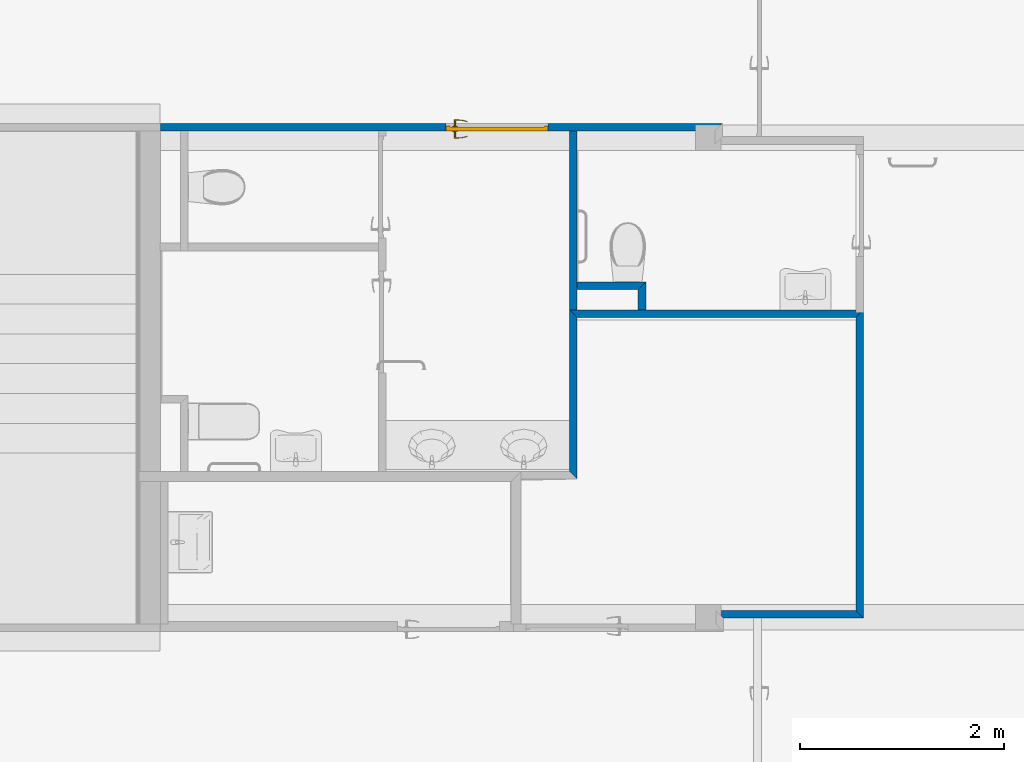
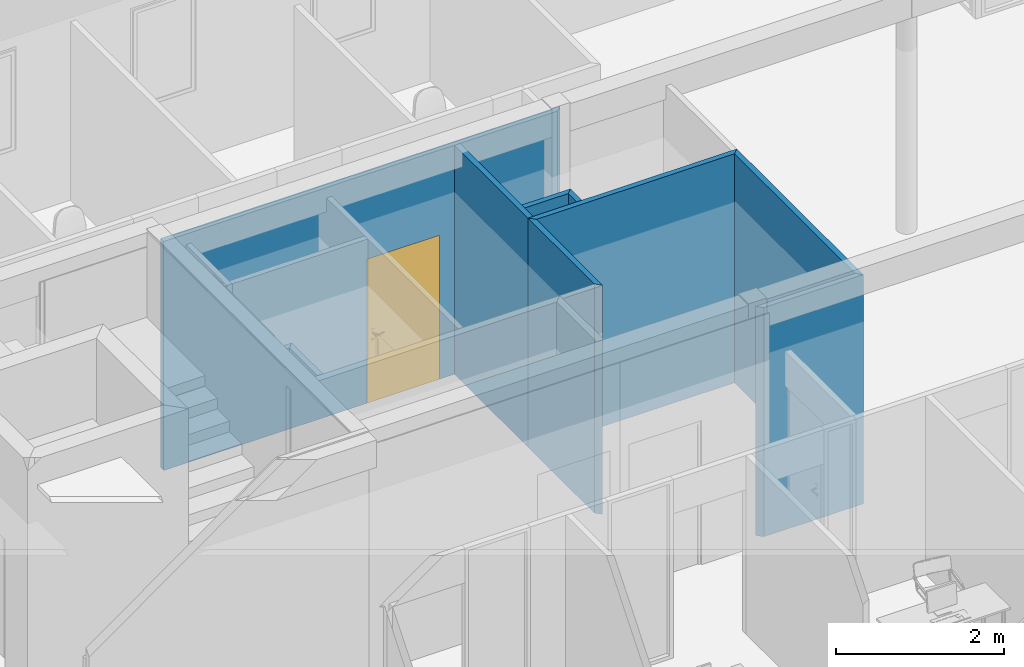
# One storey, part 24 of 91: 8 walls, 1 door, 1 opening.
"""IFC2X3 building model written with IfcOpenShell, lengths in metres."""

import ifcopenshell
import ifcopenshell.guid

model = None  # the IFC model being written
_history = None  # IfcOwnerHistory: only IFC2X3 demands one
_inside = {}  # id of a spatial element -> (the spatial element, [elements in it])
_under = {}  # id of a project, library or spatial element -> (it, [spatial elements below it])
_declared = {}  # id of a project -> (the project, [libraries it declares])
_typed = {}  # id of a type object -> (the type object, [elements of that type])
_made_of = {}  # id of a material, layer set ... -> (it, [elements and type objects made of it])


def new_model(schema):
    """Start an empty IFC model of exactly this schema.

    Asked for "IFC4X3", IfcOpenShell would pick the latest addendum, in which some entities
    have other attributes; the version numbers below select the first issue.
    IFC2X3 requires an IfcOwnerHistory on every rooted entity: one is made here for all.
    """
    global model, _history
    if schema == "IFC4X3":
        model = ifcopenshell.file(schema_version=(4, 3, 0, 0))
    else:
        model = ifcopenshell.file(schema=schema)
    _inside.clear()
    _under.clear()
    _declared.clear()
    _typed.clear()
    _made_of.clear()
    _history = None
    if model.schema == "IFC2X3":
        org = make("IfcOrganization", Name="unknown")
        user = make(
            "IfcPersonAndOrganization",
            ThePerson=make("IfcPerson", FamilyName="unknown"),
            TheOrganization=org,
        )
        app = make(
            "IfcApplication",
            ApplicationDeveloper=org,
            Version="unknown",
            ApplicationFullName="unknown",
            ApplicationIdentifier="unknown",
        )
        _history = make(
            "IfcOwnerHistory",
            OwningUser=user,
            OwningApplication=app,
            ChangeAction="ADDED",
            CreationDate=0,
        )
    return model


def make(cls, **values):
    """One entity of the class cls with the attributes given. An attribute that is None is left unset."""
    return model.create_entity(
        cls, **{name: value for name, value in values.items() if value is not None}
    )


def entity(cls, *values):
    """Any entity or typed value of the class cls, its attributes in the order of the schema. None: left unset."""
    e = model.create_entity(cls)
    for i, value in enumerate(values):
        if value is not None:
            e[i] = value
    return e


def rooted(cls, **values):
    """An entity with a GlobalId (a new one), such as an element, a storey or a relation."""
    return make(cls, GlobalId=ifcopenshell.guid.new(), OwnerHistory=_history, **values)


def si_unit(unit_type, name, prefix=None):
    """IfcSIUnit, for example si_unit("LENGTHUNIT", "METRE", prefix="MILLI")."""
    return make("IfcSIUnit", UnitType=unit_type, Prefix=prefix, Name=name)


def converted_unit(unit_type, name, factor, base, dimensions=None, offset=None):
    """IfcConversionBasedUnit, such as the inch: factor (a typed value) times the base unit."""
    return make(
        "IfcConversionBasedUnit"
        if offset is None
        else "IfcConversionBasedUnitWithOffset",
        ConversionOffset=offset,
        Dimensions=None
        if dimensions is None
        else entity("IfcDimensionalExponents", *dimensions),
        UnitType=unit_type,
        Name=name,
        ConversionFactor=make(
            "IfcMeasureWithUnit", ValueComponent=factor, UnitComponent=base
        ),
    )


def derived_unit(unit_type, elements):
    """IfcDerivedUnit: a product of units, each with its exponent."""
    return make(
        "IfcDerivedUnit",
        Elements=[
            make("IfcDerivedUnitElement", Unit=unit, Exponent=power)
            for unit, power in elements
        ],
        UnitType=unit_type,
    )


def money_unit(currency):
    """IfcMonetaryUnit."""
    return make("IfcMonetaryUnit", Currency=currency)


def assignment(units):
    """IfcUnitAssignment: the units of a project."""
    return None if units is None else make("IfcUnitAssignment", Units=units)


def point(xyz):
    """IfcCartesianPoint."""
    return None if xyz is None else make("IfcCartesianPoint", Coordinates=xyz)


def direction(xyz):
    """IfcDirection."""
    return None if xyz is None else make("IfcDirection", DirectionRatios=xyz)


def frame(location, z_axis=None, x_axis=None):
    """IfcAxis2Placement3D, a coordinate frame: its origin and axes. An axis left out is left unset."""
    return make(
        "IfcAxis2Placement3D",
        Location=point(location),
        Axis=direction(z_axis),
        RefDirection=direction(x_axis),
    )


def frame_2d(location, x_axis=None):
    """IfcAxis2Placement2D, a coordinate frame in the plane: its origin and x axis."""
    return make(
        "IfcAxis2Placement2D", Location=point(location), RefDirection=direction(x_axis)
    )


def origin_with_axes():
    """The frame at (0, 0, 0) with the z axis (0, 0, 1) and the x axis (1, 0, 0) written out."""
    return frame((0.0, 0.0, 0.0), z_axis=(0.0, 0.0, 1.0), x_axis=(1.0, 0.0, 0.0))


def origin_2d_with_axis():
    """The frame at (0, 0) in the plane with the x axis (1, 0) written out."""
    return frame_2d((0.0, 0.0), x_axis=(1.0, 0.0))


def place(relative_to, where):
    """IfcLocalPlacement: puts the frame where relative to a parent placement (None: the world)."""
    return make(
        "IfcLocalPlacement", PlacementRelTo=relative_to, RelativePlacement=where
    )


def context(
    kind, dimensions, precision=None, world=None, true_north=None, identifier=None
):
    """IfcGeometricRepresentationContext, for example the 3D "Model" context."""
    return make(
        "IfcGeometricRepresentationContext",
        ContextIdentifier=identifier,
        ContextType=kind,
        CoordinateSpaceDimension=dimensions,
        Precision=precision,
        WorldCoordinateSystem=world,
        TrueNorth=true_north,
    )


def subcontext(parent, identifier, kind, view, scale=None):
    """IfcGeometricRepresentationSubContext, for example "Body" below "Model"."""
    return make(
        "IfcGeometricRepresentationSubContext",
        ContextIdentifier=identifier,
        ContextType=kind,
        ParentContext=parent,
        TargetScale=scale,
        TargetView=view,
    )


def project(units=None, contexts=None):
    """IfcProject with its units and contexts."""
    return rooted(
        "IfcProject",
        Name="project",
        RepresentationContexts=contexts,
        UnitsInContext=assignment(units),
    )


def spatial(cls, under=None, at=None, **own):
    """A site, building, storey or space (cls), placed at a placement, below another one or the project."""
    s = rooted(cls, ObjectPlacement=at, **own)
    if under is not None:
        _under.setdefault(under.id(), (under, []))[1].append(s)
    return s


def polyline(points):
    """IfcPolyline through the points."""
    return make("IfcPolyline", Points=[point(p) for p in points])


def profile(cls, at=None, kind="AREA", **sizes):
    """A parametric profile (cls). Its sizes go by their IFC names, for example OverallWidth=200.0."""
    return make(cls, ProfileType=kind, Position=at, **sizes)


def rectangle(**sizes):
    """IfcRectangleProfileDef."""
    return profile("IfcRectangleProfileDef", **sizes)


def outline(outer, holes=None, kind="AREA"):
    """IfcArbitraryClosedProfileDef: a profile drawn as a closed curve; with holes, ...WithVoids."""
    if holes is None:
        return make("IfcArbitraryClosedProfileDef", ProfileType=kind, OuterCurve=outer)
    return make(
        "IfcArbitraryProfileDefWithVoids",
        ProfileType=kind,
        OuterCurve=outer,
        InnerCurves=holes,
    )


def extrude(swept, where, along, depth):
    """IfcExtrudedAreaSolid: the profile swept, set in the frame where, extruded along a direction by depth."""
    return make(
        "IfcExtrudedAreaSolid",
        SweptArea=swept,
        Position=where,
        ExtrudedDirection=direction(along),
        Depth=depth,
    )


def faces_of(points, faces, orient=None, outer=None):
    """IfcFace entities. A face is a list of loops; a loop is a list of indices into points, from 0.

    orient and outer hold one flag for each loop. By default every Orientation is true, the
    first loop of a face is its IfcFaceOuterBound and the others are IfcFaceBound.
    """
    made = []
    for i, loops in enumerate(faces):
        bounds = []
        for j, loop in enumerate(loops):
            is_outer = j == 0 if outer is None else outer[i][j]
            bounds.append(
                make(
                    "IfcFaceOuterBound" if is_outer else "IfcFaceBound",
                    Bound=make("IfcPolyLoop", Polygon=[points[k] for k in loop]),
                    Orientation=True if orient is None else orient[i][j],
                )
            )
        made.append(make("IfcFace", Bounds=bounds))
    return made


def open_shell(faces, orient=None, outer=None):
    """The faces of one IfcOpenShell. surface_model builds it on its shared points."""
    return ("IfcOpenShell", faces, orient, outer)


def faceted_brep(points, faces, orient=None, outer=None, voids=None):
    """IfcFacetedBrep: a solid bounded by flat faces; with voids (closed shells), ...WithVoids."""
    shared = [point(p) for p in points]
    hull = make("IfcClosedShell", CfsFaces=faces_of(shared, faces, orient, outer))
    if voids is None:
        return make("IfcFacetedBrep", Outer=hull)
    return make(
        "IfcFacetedBrepWithVoids",
        Outer=hull,
        Voids=[
            make(cls, CfsFaces=faces_of(shared, fs, o, b)) for cls, fs, o, b in voids
        ],
    )


def surface_model(cls, points, shells):
    """IfcFaceBasedSurfaceModel or IfcShellBasedSurfaceModel (cls): surfaces that need not close."""
    shared = [point(p) for p in points]
    made = [make(c, CfsFaces=faces_of(shared, fs, o, b)) for c, fs, o, b in shells]
    if cls == "IfcFaceBasedSurfaceModel":
        return make(cls, FbsmFaces=made)
    return make(cls, SbsmBoundary=made)


def shape(context_of_items, identifier, shape_type, items):
    """IfcShapeRepresentation: the items that make up one representation, for example the "Body"."""
    return make(
        "IfcShapeRepresentation",
        ContextOfItems=context_of_items,
        RepresentationIdentifier=identifier,
        RepresentationType=shape_type,
        Items=items,
    )


def source(mapping_origin, context_of_items, identifier, shape_type, items):
    """IfcRepresentationMap: a shape defined once, which mapped items show again and again."""
    return make(
        "IfcRepresentationMap",
        MappingOrigin=mapping_origin,
        MappedRepresentation=shape(context_of_items, identifier, shape_type, items),
    )


def transform(
    local_origin,
    x_axis=None,
    y_axis=None,
    z_axis=None,
    scale=None,
    scale2=None,
    scale3=None,
    uniform=True,
):
    """IfcCartesianTransformationOperator3D, or its non-uniform kind. x_axis, y_axis, z_axis: its Axis1, 2, 3."""
    if uniform:
        return make(
            "IfcCartesianTransformationOperator3D",
            Axis1=direction(x_axis),
            Axis2=direction(y_axis),
            LocalOrigin=point(local_origin),
            Scale=scale,
            Axis3=direction(z_axis),
        )
    return make(
        "IfcCartesianTransformationOperator3DnonUniform",
        Axis1=direction(x_axis),
        Axis2=direction(y_axis),
        LocalOrigin=point(local_origin),
        Scale=scale,
        Axis3=direction(z_axis),
        Scale2=scale2,
        Scale3=scale3,
    )


def mapped(mapping_source, mapping_target):
    """IfcMappedItem: shows the shape of a source again, moved by a transform."""
    return make(
        "IfcMappedItem", MappingSource=mapping_source, MappingTarget=mapping_target
    )


def material(Name=None, Category=None):
    """IfcMaterial."""
    return make("IfcMaterial", Name=Name, Category=Category)


def layer(
    of_material, thickness, ventilated=None, Name=None, Category=None, Priority=None
):
    """IfcMaterialLayer: one layer of a wall or slab, of a material (None: an air gap)."""
    return make(
        "IfcMaterialLayer",
        Material=of_material,
        LayerThickness=thickness,
        IsVentilated=ventilated,
        Name=Name,
        Category=Category,
        Priority=Priority,
    )


def layer_set(layers, Name=None):
    """IfcMaterialLayerSet."""
    return make("IfcMaterialLayerSet", MaterialLayers=layers, LayerSetName=Name)


def layer_usage(for_layer_set, set_direction, sense, offset, extent=None):
    """IfcMaterialLayerSetUsage: how a layer set lies in its element."""
    return make(
        "IfcMaterialLayerSetUsage",
        ForLayerSet=for_layer_set,
        LayerSetDirection=set_direction,
        DirectionSense=sense,
        OffsetFromReferenceLine=offset,
        ReferenceExtent=extent,
    )


def made_of(thing, what):
    """Note that an element or type object is made of a material, layer set ...; save() writes the relation."""
    if what is not None:
        _made_of.setdefault(what.id(), (what, []))[1].append(thing)
    return thing


def type_object(cls, material=None, **own):
    """A type object (cls), such as IfcWallType, which elements share."""
    return made_of(rooted(cls, **own), material)


def element(
    cls,
    number,
    at=None,
    inside=None,
    cuts=None,
    type_object=None,
    material=None,
    context=None,
    identifier="Body",
    shape_type=None,
    held_by="IfcProductDefinitionShape",
    body=None,
    shapes=None,
    **own,
):
    """One element of the class cls, such as IfcWall. Its Tag is "e" and its number.

    at: its placement. inside: the storey or other place that contains it. cuts: it is an
    opening in that element (IfcRelVoidsElement). A single representation is given by context,
    identifier, shape_type and body (its items); several are given by shapes. held_by: the class
    of the entity that holds the representations. save() writes the other relations.
    """
    e = rooted(cls, Tag="e%d" % number, ObjectPlacement=at, **own)
    if body is not None:
        shapes = [shape(context, identifier, shape_type, body)]
    if shapes is not None:
        e.Representation = make(held_by, Representations=shapes)
    if inside is not None:
        _inside.setdefault(inside.id(), (inside, []))[1].append(e)
    if cuts is not None:
        rooted(
            "IfcRelVoidsElement", RelatingBuildingElement=cuts, RelatedOpeningElement=e
        )
    if type_object is not None:
        _typed.setdefault(type_object.id(), (type_object, []))[1].append(e)
    return made_of(e, material)


def fill(opening, filler):
    """IfcRelFillsElement: the door or window that sits in an opening."""
    return rooted(
        "IfcRelFillsElement",
        RelatingOpeningElement=opening,
        RelatedBuildingElement=filler,
    )


def aggregate(whole, parts):
    """IfcRelAggregates: a whole, such as a stair, and the parts it consists of."""
    return rooted("IfcRelAggregates", RelatingObject=whole, RelatedObjects=parts)


def save(model, path):
    """Write the relations noted so far, then the file.

    IfcRelAggregates (storeys below a building ...), IfcRelContainedInSpatialStructure (elements
    in a storey), IfcRelDefinesByType, IfcRelAssociatesMaterial and IfcRelDeclares: one each for
    every whole, place, type object, material and project.
    """
    for whole, parts in _under.values():
        aggregate(whole, parts)
    for where, things in _inside.values():
        rooted(
            "IfcRelContainedInSpatialStructure",
            RelatedElements=things,
            RelatingStructure=where,
        )
    for kind, things in _typed.values():
        rooted("IfcRelDefinesByType", RelatedObjects=things, RelatingType=kind)
    for what, things in _made_of.values():
        rooted("IfcRelAssociatesMaterial", RelatedObjects=things, RelatingMaterial=what)
    for by, libraries in _declared.values():
        rooted("IfcRelDeclares", RelatingContext=by, RelatedDefinitions=libraries)
    model.write(path)


model = new_model("IFC2X3")

# Units and contexts
model_context = context("Model", 3, precision=1e-05, world=origin_with_axes(), true_north=direction((0.0, 1.0)))
body_context = subcontext(model_context, "Body", "Model", "MODEL_VIEW")
ifc_project = project(units=[si_unit("LENGTHUNIT", "METRE"), si_unit("AREAUNIT", "SQUARE_METRE"), si_unit("VOLUMEUNIT", "CUBIC_METRE"), converted_unit("PLANEANGLEUNIT", "DEGREE", entity("IfcPlaneAngleMeasure", 0.0174532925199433), si_unit("PLANEANGLEUNIT", "RADIAN"), dimensions=[0, 0, 0, 0, 0, 0, 0]), money_unit("EUR"), converted_unit("TIMEUNIT", "Year", entity("IfcTimeMeasure", 31557600.0), si_unit("TIMEUNIT", "SECOND"), dimensions=[0, 0, 1, 0, 0, 0, 0]), si_unit("MASSUNIT", "GRAM", prefix="KILO"), si_unit("THERMODYNAMICTEMPERATUREUNIT", "DEGREE_CELSIUS"), si_unit("LUMINOUSINTENSITYUNIT", "LUMEN"), si_unit("ENERGYUNIT", "JOULE", prefix="MEGA"), derived_unit("THERMALCONDUCTANCEUNIT", [(si_unit("POWERUNIT", "WATT"), 1), (si_unit("LENGTHUNIT", "METRE"), -1), (si_unit("THERMODYNAMICTEMPERATUREUNIT", "KELVIN"), -1)]), derived_unit("SPECIFICHEATCAPACITYUNIT", [(si_unit("ENERGYUNIT", "JOULE"), 1), (si_unit("MASSUNIT", "GRAM", prefix="KILO"), -1), (si_unit("THERMODYNAMICTEMPERATUREUNIT", "KELVIN"), -1)]), derived_unit("MASSDENSITYUNIT", [(si_unit("MASSUNIT", "GRAM", prefix="KILO"), 1), (si_unit("VOLUMEUNIT", "CUBIC_METRE"), -1)])], contexts=[model_context])

# Site, building, storey
site_placement = place(None, origin_with_axes())
site = spatial("IfcSite", under=ifc_project, at=site_placement, Name="Site", CompositionType="ELEMENT")
building_placement = place(site_placement, origin_with_axes())
building = spatial("IfcBuilding", under=site, at=building_placement, Name="Bâtiment", CompositionType="ELEMENT")
storey_placement = place(building_placement, origin_with_axes())
storey = spatial("IfcBuildingStorey", under=building, at=storey_placement, Name="RDC", CompositionType="ELEMENT", Elevation=0.0)

# Walls
ifc_material_1 = material(Name="Finition int - Plaque de plâtre")
ifc_layer_1 = layer(ifc_material_1, 0.013, ventilated="UNKNOWN")
ifc_material_2 = material(Name="Isolation - Laine de verre")
ifc_layer_2 = layer(ifc_material_2, 0.048, ventilated="UNKNOWN")
ifc_layer_3 = layer(ifc_material_1, 0.013, ventilated="UNKNOWN")
ifc_layer_set = layer_set([ifc_layer_1, ifc_layer_2, ifc_layer_3], Name="*Cloison 72")
ifc_layer_usage_1 = layer_usage(ifc_layer_set, "AXIS2", "POSITIVE", 0.0)
wall_type = type_object("IfcWallType", Name="*Cloison 72 74", PredefinedType="NOTDEFINED")
wall_1_placement = place(storey_placement, frame((42.13700816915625, -20.02867101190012, 0.0), z_axis=(0.0, 0.0, 1.0), x_axis=(0.0, 1.0, 0.0)))
element("IfcWallStandardCase", 1, at=wall_1_placement, inside=storey, type_object=wall_type, material=ifc_layer_usage_1, Name="Cloisons ép. 72mm", context=body_context, shape_type="SweptSolid", body=[
    extrude(outline(polyline([(-0.0740000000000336, 0.0), (1.51111129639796, 0.0), (1.585111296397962, 0.07399999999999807), (6.812595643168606e-08, 0.07399999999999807), (-0.0740000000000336, 0.0)])), origin_with_axes(), (0.0, 0.0, 1.0), 3.34),
])
ifc_layer_usage_2 = layer_usage(ifc_layer_set, "AXIS2", "NEGATIVE", 0.0)
wall_2_placement = place(storey_placement, frame((44.94299999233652, -21.46756192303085, 0.0), z_axis=(0.0, 0.0, 1.0), x_axis=(-1.0, 0.0, 0.0)))
element("IfcWallStandardCase", 2, at=wall_2_placement, inside=storey, type_object=wall_type, material=ifc_layer_usage_2, Name="Cloisons ép. 72mm", context=body_context, shape_type="SweptSolid", body=[
    extrude(outline(polyline([(0.07399999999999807, -0.07400000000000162), (1.446901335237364, -0.07400000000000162), (1.372901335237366, 0.0), (0.0, 0.0), (0.07399999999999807, -0.07400000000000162)])), origin_with_axes(), (0.0, 0.0, 1.0), 3.34),
])
ifc_layer_usage_3 = layer_usage(ifc_layer_set, "AXIS2", "NEGATIVE", 0.0)
wall_3_placement = place(storey_placement, frame((42.06300816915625, -18.44355971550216, 0.0), z_axis=(0.0, 0.0, 1.0), x_axis=(0.0, 1.0, 0.0)))
element("IfcWallStandardCase", 3, at=wall_3_placement, inside=storey, type_object=wall_type, material=ifc_layer_usage_3, Name="Cloisons ép. 72mm", context=body_context, shape_type="SweptSolid", body=[
    extrude(outline(polyline([(0.0, -0.07399999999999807), (1.751997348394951, -0.07399999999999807), (1.751997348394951, 0.0), (0.0, 0.0), (0.0, -0.07399999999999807)])), origin_with_axes(), (0.0, 0.0, 1.0), 3.34),
])
ifc_layer_usage_4 = layer_usage(ifc_layer_set, "AXIS2", "POSITIVE", 0.0)
wall_4_placement = place(storey_placement, frame((42.06300816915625, -18.24355971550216, 0.0), z_axis=(0.0, 0.0, 1.0), x_axis=(1.0, 0.0, 0.0)))
element("IfcWallStandardCase", 4, at=wall_4_placement, inside=storey, type_object=wall_type, material=ifc_layer_usage_4, Name="Cloisons ép. 72mm", context=body_context, shape_type="SweptSolid", body=[
    extrude(outline(polyline([(0.07399999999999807, 0.0), (0.6725318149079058, 0.0), (0.7465318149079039, 0.07400000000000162), (0.07399999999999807, 0.07400000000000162), (0.07399999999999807, 0.0)])), origin_with_axes(), (0.0, 0.0, 1.0), 3.34),
])
ifc_layer_usage_5 = layer_usage(ifc_layer_set, "AXIS2", "NEGATIVE", 0.0)
wall_5_placement = place(storey_placement, frame((42.73553998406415, -18.44355971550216, 0.0), z_axis=(0.0, 0.0, 1.0), x_axis=(0.0, 1.0, 0.0)))
element("IfcWallStandardCase", 5, at=wall_5_placement, inside=storey, type_object=wall_type, material=ifc_layer_usage_5, Name="Cloisons ép. 72mm", context=body_context, shape_type="SweptSolid", body=[
    extrude(outline(polyline([(0.0, -0.07399999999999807), (0.2740000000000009, -0.07399999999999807), (0.1999999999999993, 0.0), (0.0, 0.0), (0.0, -0.07399999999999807)])), origin_with_axes(), (0.0, 0.0, 1.0), 3.34),
])
ifc_layer_usage_6 = layer_usage(ifc_layer_set, "AXIS2", "NEGATIVE", 0.0)
wall_6_placement = place(storey_placement, frame((44.94299999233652, -18.51755971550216, 0.0), z_axis=(0.0, 0.0, 1.0), x_axis=(-1.0, 0.0, 0.0)))
element("IfcWallStandardCase", 6, at=wall_6_placement, inside=storey, type_object=wall_type, material=ifc_layer_usage_6, Name="Cloisons ép. 72mm", context=body_context, shape_type="SweptSolid", body=[
    extrude(outline(polyline([(0.0, -0.07400000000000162), (2.879991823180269, -0.07400000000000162), (2.805991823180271, 0.0), (0.07399999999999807, 0.0), (0.0, -0.07400000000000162)])), origin_with_axes(), (0.0, 0.0, 1.0), 3.34),
])
ifc_layer_usage_7 = layer_usage(ifc_layer_set, "AXIS2", "NEGATIVE", 0.0)
wall_7_placement = place(storey_placement, frame((44.94299999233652, -18.51755971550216, 0.0), z_axis=(0.0, 0.0, 1.0), x_axis=(0.0, -1.0, 0.0)))
element("IfcWallStandardCase", 7, at=wall_7_placement, inside=storey, type_object=wall_type, material=ifc_layer_usage_7, Name="Cloisons ép. 72mm", context=body_context, shape_type="SweptSolid", body=[
    extrude(outline(polyline([(0.0, -0.07399999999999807), (2.876002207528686, -0.07399999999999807), (2.950002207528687, 0.0), (-0.07400000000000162, 0.0), (0.0, -0.07399999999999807)])), origin_with_axes(), (0.0, 0.0, 1.0), 3.34),
])

# Wall, opening, door
ifc_layer_usage_8 = layer_usage(ifc_layer_set, "AXIS2", "POSITIVE", 0.0)
wall_8_placement = place(storey_placement, frame((43.55999727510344, -16.61756236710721, 0.0), z_axis=(0.0, 0.0, 1.0), x_axis=(-1.0, 0.0, 0.0)))
wall_8 = element("IfcWallStandardCase", 8, at=wall_8_placement, inside=storey, type_object=wall_type, material=ifc_layer_usage_8, Name="Cloisons ép. 72mm", context=body_context, shape_type="SweptSolid", body=[
    extrude(outline(polyline([(0.0, 0.0), (5.506989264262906, 0.0), (5.506989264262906, 0.07400000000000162), (0.07399999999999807, 0.07400000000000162), (0.0, 0.0)])), origin_with_axes(), (0.0, 0.0, 1.0), 3.34),
])
opening_placement = place(wall_8_placement, frame((2.206989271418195, 0.0, 0.0), z_axis=(0.0, 0.0, 1.0), x_axis=(1.0, 0.0, 0.0)))
opening = element("IfcOpeningElement", 9, at=opening_placement, cuts=wall_8, Name="Pi.05", context=body_context, shape_type="SweptSolid", body=[
    extrude(rectangle(XDim=1.0, YDim=2.1, at=origin_2d_with_axis()), frame((0.0, -0.07400000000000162, 1.05), z_axis=(0.0, -1.0, 0.0), x_axis=(-1.0, 0.0, 0.0)), (0.0, 0.0, -1.0), 0.222),
])
door_style = type_object("IfcDoorStyle", Name="Porte 27", ConstructionType="NOTDEFINED", OperationType="SINGLE_SWING_LEFT", ParameterTakesPrecedence=False, Sizeable=False)
shared_shape = source(origin_with_axes(), body_context, "Body", "SurfaceModel", [
    faceted_brep([(0.5, 0.0, 0.0), (0.5, -0.05, 0.0), (0.465, -0.05, 0.0), (0.465, 0.0, 0.0), (0.5, 0.0, 2.04), (0.5, -0.05, 2.04), (0.465, -0.05, 2.04), (0.465, 0.0, 2.04)], [[[0, 1, 2, 3]], [[4, 5, 1, 0]], [[1, 5, 6, 2]], [[3, 2, 6, 7]], [[0, 3, 7, 4]], [[7, 6, 5, 4]]]),
    faceted_brep([(-0.5, 0.0, 0.0), (-0.5, -0.05, 0.0), (-0.5, -0.05, 2.04), (-0.5, 0.0, 2.04), (-0.465, 0.0, 0.0), (-0.465, -0.05, 0.0), (-0.465, -0.05, 2.04), (-0.465, 0.0, 2.04)], [[[0, 1, 2, 3]], [[4, 5, 1, 0]], [[1, 5, 6, 2]], [[3, 2, 6, 7]], [[0, 3, 7, 4]], [[7, 6, 5, 4]]]),
    faceted_brep([(0.5, 0.0, 2.1), (0.5, -0.05, 2.1), (0.5, -0.05, 2.04), (0.5, 0.0, 2.04), (-0.5, 0.0, 2.1), (-0.5, -0.05, 2.1), (-0.5, -0.05, 2.04), (-0.465, -0.05, 2.04), (0.465, -0.05, 2.04), (0.465, 0.0, 2.04), (-0.465, 0.0, 2.04), (-0.5, 0.0, 2.04)], [[[0, 1, 2, 3]], [[4, 5, 1, 0]], [[1, 5, 6, 7, 8, 2]], [[3, 2, 8, 9]], [[0, 3, 9, 10, 11, 4]], [[11, 6, 5, 4]], [[10, 7, 6, 11]], [[9, 8, 7, 10]]]),
    faceted_brep([(0.4435, -0.04, 1.06), (0.3865, -0.04, 1.06), (0.3865, -0.043, 1.06), (0.4435, -0.043, 1.06), (0.4435, -0.04, 0.87), (0.3865, -0.04, 0.87), (0.3865, -0.043, 0.87), (0.4435, -0.043, 0.87)], [[[0, 1, 2, 3]], [[0, 4, 5, 1]], [[1, 5, 6, 2]], [[3, 2, 6, 7]], [[4, 0, 3, 7]], [[5, 4, 7, 6]]]),
    faceted_brep([(0.4149999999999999, -0.104, 0.99), (0.4199999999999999, -0.104, 0.9913397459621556), (0.4199999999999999, -0.111, 0.9913397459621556), (0.4149999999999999, -0.111, 0.99), (0.3899999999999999, -0.104, 0.99), (0.3899999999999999, -0.104, 1.01), (0.4149999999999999, -0.104, 1.01), (0.4199999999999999, -0.104, 1.008660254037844), (0.4236602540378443, -0.104, 1.005), (0.4249999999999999, -0.104, 1.0), (0.4236602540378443, -0.104, 0.995), (0.4236602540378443, -0.111, 0.995), (0.4249999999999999, -0.111, 1.0), (0.4236602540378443, -0.111, 1.005), (0.4199999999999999, -0.111, 1.008660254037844), (0.4149999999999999, -0.111, 1.01), (0.3899999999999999, -0.111, 1.01), (0.3899999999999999, -0.111, 0.99)], [[[0, 1, 2, 3]], [[0, 4, 5, 6, 7, 8, 9, 10, 1]], [[1, 10, 11, 2]], [[3, 2, 11, 12, 13, 14, 15, 16, 17]], [[4, 0, 3, 17]], [[5, 4, 17, 16]], [[6, 5, 16, 15]], [[7, 6, 15, 14]], [[8, 7, 14, 13]], [[9, 8, 13, 12]], [[10, 9, 12, 11]]]),
    surface_model("IfcShellBasedSurfaceModel", [(0.3899999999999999, -0.104, 1.01), (0.3769017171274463, -0.104, 1.009607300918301), (0.3765960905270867, -0.111, 1.009607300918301), (0.3899999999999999, -0.104, 0.99), (0.3769017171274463, -0.104, 0.9903926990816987), (0.349890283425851, -0.1086635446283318, 1.008821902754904), (0.3899999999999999, -0.111, 1.01), (0.3899999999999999, -0.111, 0.99), (0.3508048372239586, -0.1017168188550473, 0.9911780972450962), (0.3508048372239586, -0.1017168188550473, 1.008821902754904), (0.349890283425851, -0.1086635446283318, 0.9911780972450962), (0.3765960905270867, -0.111, 0.9903926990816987), (0.325006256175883, -0.09716783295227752, 0.9919634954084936), (0.325006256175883, -0.09716783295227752, 1.008036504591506), (0.3234897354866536, -0.104008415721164, 1.008036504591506), (0.3234897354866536, -0.104008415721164, 0.9919634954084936), (0.2997023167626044, -0.09038766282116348, 0.9927488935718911), (0.2997023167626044, -0.09038766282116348, 1.007251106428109), (0.2975953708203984, -0.09707004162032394, 1.007251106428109), (0.2975953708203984, -0.09707004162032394, 0.9927488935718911), (0.2918294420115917, -0.08752217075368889, 0.993), (0.2918294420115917, -0.08752217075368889, 1.007), (0.2895387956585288, -0.09413768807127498, 1.007), (0.2895387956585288, -0.09413768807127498, 0.993)], [open_shell([[[0, 1, 2]], [[0, 3, 4, 1]], [[1, 5, 2]], [[0, 2, 6]], [[4, 3, 7]], [[1, 4, 8, 9]], [[1, 9, 5]], [[2, 5, 10, 11]], [[6, 2, 11, 7]], [[4, 7, 11]], [[8, 4, 11]], [[9, 8, 12, 13]], [[9, 14, 5]], [[5, 14, 15, 10]], [[8, 11, 10]], [[12, 8, 10]], [[13, 12, 16, 17]], [[9, 13, 14]], [[14, 18, 19, 15]], [[12, 10, 15]], [[16, 12, 15]], [[17, 16, 20, 21]], [[13, 17, 18]], [[13, 18, 14]], [[18, 22, 23, 19]], [[16, 15, 19]], [[20, 16, 19]], [[21, 20, 23, 22]], [[17, 21, 22]], [[17, 22, 18]], [[20, 19, 23]]])]),
    faceted_brep([(0.4046076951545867, -0.05300000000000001, 0.994), (0.4029999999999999, -0.05300000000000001, 1.0), (0.4019999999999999, -0.043, 1.0), (0.4037416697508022, -0.043, 0.9935), (0.4089999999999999, -0.05300000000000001, 0.9896076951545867), (0.4149999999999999, -0.05300000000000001, 0.988), (0.4209999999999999, -0.05300000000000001, 0.9896076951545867), (0.4253923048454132, -0.05300000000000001, 0.994), (0.4269999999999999, -0.05300000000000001, 1.0), (0.4253923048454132, -0.05300000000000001, 1.006), (0.4209999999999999, -0.05300000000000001, 1.010392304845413), (0.4149999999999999, -0.05300000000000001, 1.012), (0.4089999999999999, -0.05300000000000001, 1.010392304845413), (0.4046076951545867, -0.05300000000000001, 1.006), (0.4037416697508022, -0.043, 1.0065), (0.4084999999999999, -0.043, 1.011258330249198), (0.4149999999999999, -0.043, 1.013), (0.4214999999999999, -0.043, 1.011258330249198), (0.4262583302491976, -0.043, 1.0065), (0.4279999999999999, -0.043, 1.0), (0.4262583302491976, -0.043, 0.9934999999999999), (0.4214999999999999, -0.043, 0.9887416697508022), (0.4149999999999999, -0.043, 0.987), (0.4084999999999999, -0.043, 0.9887416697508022)], [[[0, 1, 2, 3]], [[1, 0, 4, 5, 6, 7, 8, 9, 10, 11, 12, 13]], [[1, 13, 14, 2]], [[2, 14, 15, 16, 17, 18, 19, 20, 21, 22, 23, 3]], [[4, 0, 3, 23]], [[5, 4, 23, 22]], [[6, 5, 22, 21]], [[7, 6, 21, 20]], [[8, 7, 20, 19]], [[9, 8, 19, 18]], [[10, 9, 18, 17]], [[11, 10, 17, 16]], [[12, 11, 16, 15]], [[13, 12, 15, 14]]]),
    faceted_brep([(0.3976794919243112, -0.04700000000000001, 0.895), (0.3949999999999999, -0.04700000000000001, 0.905), (0.3929999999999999, -0.043, 0.905), (0.3959474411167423, -0.04300000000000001, 0.894), (0.4049999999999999, -0.04700000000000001, 0.8876794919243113), (0.4149999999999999, -0.04700000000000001, 0.885), (0.4249999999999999, -0.04700000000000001, 0.8876794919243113), (0.4323205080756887, -0.04700000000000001, 0.895), (0.4349999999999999, -0.04700000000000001, 0.905), (0.4323205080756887, -0.04700000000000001, 0.915), (0.4249999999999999, -0.04700000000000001, 0.9223205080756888), (0.4149999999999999, -0.04700000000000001, 0.925), (0.4049999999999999, -0.04700000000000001, 0.9223205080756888), (0.3976794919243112, -0.04700000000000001, 0.915), (0.3959474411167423, -0.043, 0.916), (0.4039999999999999, -0.043, 0.9240525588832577), (0.4149999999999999, -0.043, 0.927), (0.4259999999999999, -0.04300000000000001, 0.9240525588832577), (0.4340525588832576, -0.04300000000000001, 0.916), (0.4369999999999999, -0.04300000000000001, 0.905), (0.4340525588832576, -0.04300000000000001, 0.894), (0.4259999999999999, -0.04300000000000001, 0.8859474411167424), (0.4149999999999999, -0.04300000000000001, 0.883), (0.4039999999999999, -0.04300000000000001, 0.8859474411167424)], [[[0, 1, 2, 3]], [[1, 0, 4, 5, 6, 7, 8, 9, 10, 11, 12, 13]], [[1, 13, 14, 2]], [[2, 14, 15, 16, 17, 18, 19, 20, 21, 22, 23, 3]], [[4, 0, 3, 23]], [[5, 4, 23, 22]], [[6, 5, 22, 21]], [[7, 6, 21, 20]], [[8, 7, 20, 19]], [[9, 8, 19, 18]], [[10, 9, 18, 17]], [[11, 10, 17, 16]], [[12, 11, 16, 15]], [[13, 12, 15, 14]]]),
    faceted_brep([(0.4100502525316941, -0.04900000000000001, 0.9090502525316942), (0.4079999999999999, -0.04900000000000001, 0.914), (0.4069999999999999, -0.04700000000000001, 0.914), (0.4093431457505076, -0.04700000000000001, 0.9083431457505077), (0.4149999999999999, -0.04900000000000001, 0.907), (0.4199497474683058, -0.04900000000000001, 0.9090502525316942), (0.4219999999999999, -0.04900000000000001, 0.914), (0.4199497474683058, -0.04900000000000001, 0.9189497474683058), (0.4149999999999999, -0.04900000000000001, 0.921), (0.4100502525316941, -0.04900000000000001, 0.9189497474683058), (0.4093431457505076, -0.04700000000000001, 0.9196568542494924), (0.4149999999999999, -0.04700000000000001, 0.922), (0.4206568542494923, -0.04700000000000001, 0.9196568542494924), (0.4229999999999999, -0.04700000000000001, 0.914), (0.4206568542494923, -0.04700000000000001, 0.9083431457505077), (0.4149999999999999, -0.04700000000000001, 0.906)], [[[0, 1, 2, 3]], [[1, 0, 4, 5, 6, 7, 8, 9]], [[1, 9, 10, 2]], [[2, 10, 11, 12, 13, 14, 15, 3]], [[4, 0, 3, 15]], [[5, 4, 15, 14]], [[6, 5, 14, 13]], [[7, 6, 13, 12]], [[8, 7, 12, 11]], [[9, 8, 11, 10]]]),
    faceted_brep([(0.4149999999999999, -0.05300000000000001, 1.01), (0.4099999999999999, -0.05300000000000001, 1.008660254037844), (0.4099999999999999, -0.104, 1.008660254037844), (0.4149999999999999, -0.104, 1.01), (0.4199999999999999, -0.05300000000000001, 1.008660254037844), (0.4236602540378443, -0.05300000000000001, 1.005), (0.4249999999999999, -0.05300000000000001, 1.0), (0.4236602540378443, -0.05300000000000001, 0.995), (0.4199999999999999, -0.05300000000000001, 0.9913397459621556), (0.4149999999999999, -0.05300000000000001, 0.99), (0.4099999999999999, -0.05300000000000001, 0.9913397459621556), (0.4063397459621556, -0.05300000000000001, 0.995), (0.4049999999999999, -0.05300000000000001, 1.0), (0.4063397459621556, -0.05300000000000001, 1.005), (0.4063397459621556, -0.104, 1.005), (0.4049999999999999, -0.104, 1.0), (0.4063397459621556, -0.104, 0.995), (0.4099999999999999, -0.104, 0.9913397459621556), (0.4149999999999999, -0.104, 0.99), (0.4199999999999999, -0.104, 0.9913397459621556), (0.4236602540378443, -0.104, 0.995), (0.4249999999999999, -0.104, 1.0), (0.4236602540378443, -0.104, 1.005), (0.4199999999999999, -0.104, 1.008660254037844)], [[[0, 1, 2, 3]], [[0, 4, 5, 6, 7, 8, 9, 10, 11, 12, 13, 1]], [[1, 13, 14, 2]], [[3, 2, 14, 15, 16, 17, 18, 19, 20, 21, 22, 23]], [[4, 0, 3, 23]], [[5, 4, 23, 22]], [[6, 5, 22, 21]], [[7, 6, 21, 20]], [[8, 7, 20, 19]], [[9, 8, 19, 18]], [[10, 9, 18, 17]], [[11, 10, 17, 16]], [[12, 11, 16, 15]], [[13, 12, 15, 14]]]),
    faceted_brep([(0.4434999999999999, 0.0, 1.06), (0.4434999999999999, 0.003000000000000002, 1.06), (0.3864999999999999, 0.002999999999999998, 1.06), (0.3864999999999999, 0.0, 1.06), (0.4434999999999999, 0.0, 0.87), (0.4434999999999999, 0.003000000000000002, 0.87), (0.3864999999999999, 0.002999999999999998, 0.87), (0.3864999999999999, 0.0, 0.87)], [[[0, 1, 2, 3]], [[4, 5, 1, 0]], [[1, 5, 6, 2]], [[3, 2, 6, 7]], [[0, 3, 7, 4]], [[7, 6, 5, 4]]]),
    faceted_brep([(0.4149999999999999, 0.064, 0.99), (0.4149999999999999, 0.07100000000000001, 0.99), (0.4199999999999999, 0.07100000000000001, 0.9913397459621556), (0.4199999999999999, 0.064, 0.9913397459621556), (0.3899999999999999, 0.064, 0.99), (0.3899999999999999, 0.071, 0.99), (0.3899999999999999, 0.071, 1.01), (0.4149999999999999, 0.07100000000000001, 1.01), (0.4199999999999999, 0.07100000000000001, 1.008660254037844), (0.4236602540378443, 0.07100000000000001, 1.005), (0.4249999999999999, 0.07100000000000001, 1.0), (0.4236602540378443, 0.07100000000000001, 0.995), (0.4236602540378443, 0.064, 0.995), (0.4249999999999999, 0.064, 1.0), (0.4236602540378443, 0.064, 1.005), (0.4199999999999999, 0.064, 1.008660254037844), (0.4149999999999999, 0.064, 1.01), (0.3899999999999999, 0.064, 1.01)], [[[0, 1, 2, 3]], [[4, 5, 1, 0]], [[1, 5, 6, 7, 8, 9, 10, 11, 2]], [[3, 2, 11, 12]], [[0, 3, 12, 13, 14, 15, 16, 17, 4]], [[17, 6, 5, 4]], [[16, 7, 6, 17]], [[15, 8, 7, 16]], [[14, 9, 8, 15]], [[13, 10, 9, 14]], [[12, 11, 10, 13]]]),
    surface_model("IfcShellBasedSurfaceModel", [(0.3899999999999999, 0.064, 1.01), (0.3765960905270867, 0.071, 1.009607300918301), (0.3769017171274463, 0.064, 1.009607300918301), (0.3899999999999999, 0.07100000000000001, 1.01), (0.349890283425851, 0.06866354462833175, 1.008821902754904), (0.3769017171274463, 0.064, 0.9903926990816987), (0.3899999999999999, 0.064, 0.99), (0.3899999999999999, 0.07100000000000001, 0.99), (0.3765960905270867, 0.071, 0.9903926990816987), (0.349890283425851, 0.06866354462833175, 0.9911780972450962), (0.3508048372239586, 0.06171681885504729, 1.008821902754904), (0.3508048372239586, 0.06171681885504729, 0.9911780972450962), (0.3234897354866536, 0.064008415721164, 0.9919634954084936), (0.3234897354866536, 0.064008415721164, 1.008036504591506), (0.325006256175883, 0.05716783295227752, 1.008036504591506), (0.325006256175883, 0.05716783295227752, 0.9919634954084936), (0.2975953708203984, 0.05707004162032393, 0.9927488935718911), (0.2975953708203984, 0.05707004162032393, 1.007251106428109), (0.2997023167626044, 0.05038766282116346, 1.007251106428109), (0.2997023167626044, 0.05038766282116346, 0.9927488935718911), (0.2895387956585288, 0.05413768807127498, 0.993), (0.2895387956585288, 0.05413768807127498, 1.007), (0.2918294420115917, 0.04752217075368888, 1.007), (0.2918294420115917, 0.04752217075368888, 0.993)], [open_shell([[[0, 1, 2]], [[0, 3, 1]], [[2, 1, 4]], [[0, 2, 5, 6]], [[3, 7, 8, 1]], [[1, 8, 9, 4]], [[2, 4, 10]], [[2, 10, 11, 5]], [[5, 7, 6]], [[5, 8, 7]], [[11, 9, 8]], [[4, 9, 12, 13]], [[10, 4, 13]], [[10, 14, 15, 11]], [[11, 8, 5]], [[15, 9, 11]], [[15, 12, 9]], [[13, 12, 16, 17]], [[10, 13, 14]], [[14, 18, 19, 15]], [[19, 12, 15]], [[19, 16, 12]], [[17, 16, 20, 21]], [[14, 13, 17]], [[14, 17, 18]], [[18, 22, 23, 19]], [[23, 16, 19]], [[23, 20, 16]], [[22, 21, 20, 23]], [[18, 17, 21]], [[18, 21, 22]]])]),
    faceted_brep([(0.4046076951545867, 0.013, 0.994), (0.4037416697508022, 0.003, 0.9935), (0.4019999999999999, 0.002999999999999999, 1.0), (0.4029999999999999, 0.013, 1.0), (0.4089999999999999, 0.013, 0.9896076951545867), (0.4084999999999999, 0.003, 0.9887416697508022), (0.4149999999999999, 0.003000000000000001, 0.987), (0.4214999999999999, 0.003000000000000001, 0.9887416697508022), (0.4262583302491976, 0.003000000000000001, 0.9934999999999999), (0.4279999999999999, 0.003000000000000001, 1.0), (0.4262583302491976, 0.003, 1.0065), (0.4214999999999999, 0.003, 1.011258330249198), (0.4149999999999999, 0.002999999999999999, 1.013), (0.4084999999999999, 0.002999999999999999, 1.011258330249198), (0.4037416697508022, 0.002999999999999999, 1.0065), (0.4046076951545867, 0.013, 1.006), (0.4089999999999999, 0.013, 1.010392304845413), (0.4149999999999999, 0.013, 1.012), (0.4209999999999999, 0.013, 1.010392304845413), (0.4253923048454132, 0.013, 1.006), (0.4269999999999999, 0.013, 1.0), (0.4253923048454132, 0.013, 0.994), (0.4209999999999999, 0.013, 0.9896076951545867), (0.4149999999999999, 0.013, 0.988)], [[[0, 1, 2, 3]], [[4, 5, 1, 0]], [[2, 1, 5, 6, 7, 8, 9, 10, 11, 12, 13, 14]], [[3, 2, 14, 15]], [[3, 15, 16, 17, 18, 19, 20, 21, 22, 23, 4, 0]], [[23, 6, 5, 4]], [[22, 7, 6, 23]], [[21, 8, 7, 22]], [[20, 9, 8, 21]], [[19, 10, 9, 20]], [[18, 11, 10, 19]], [[17, 12, 11, 18]], [[16, 13, 12, 17]], [[15, 14, 13, 16]]]),
    faceted_brep([(0.3976794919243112, 0.007000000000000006, 0.895), (0.3959474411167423, 0.003000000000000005, 0.894), (0.3929999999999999, 0.003000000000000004, 0.905), (0.3949999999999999, 0.007000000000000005, 0.905), (0.4049999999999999, 0.007000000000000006, 0.8876794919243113), (0.4039999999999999, 0.003000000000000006, 0.8859474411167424), (0.4149999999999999, 0.003000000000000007, 0.883), (0.4259999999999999, 0.003000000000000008, 0.8859474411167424), (0.4340525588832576, 0.003000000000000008, 0.894), (0.4369999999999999, 0.003000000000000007, 0.905), (0.4340525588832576, 0.003000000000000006, 0.916), (0.4259999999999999, 0.003000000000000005, 0.9240525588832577), (0.4149999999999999, 0.003000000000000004, 0.927), (0.4039999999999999, 0.003000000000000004, 0.9240525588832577), (0.3959474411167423, 0.003000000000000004, 0.916), (0.3976794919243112, 0.007000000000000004, 0.915), (0.4049999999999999, 0.007000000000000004, 0.9223205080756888), (0.4149999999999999, 0.007000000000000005, 0.925), (0.4249999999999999, 0.007000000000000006, 0.9223205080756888), (0.4323205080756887, 0.007000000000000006, 0.915), (0.4349999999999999, 0.007000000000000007, 0.905), (0.4323205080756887, 0.007000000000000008, 0.895), (0.4249999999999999, 0.007000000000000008, 0.8876794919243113), (0.4149999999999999, 0.007000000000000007, 0.885)], [[[0, 1, 2, 3]], [[4, 5, 1, 0]], [[2, 1, 5, 6, 7, 8, 9, 10, 11, 12, 13, 14]], [[3, 2, 14, 15]], [[3, 15, 16, 17, 18, 19, 20, 21, 22, 23, 4, 0]], [[23, 6, 5, 4]], [[22, 7, 6, 23]], [[21, 8, 7, 22]], [[20, 9, 8, 21]], [[19, 10, 9, 20]], [[18, 11, 10, 19]], [[17, 12, 11, 18]], [[16, 13, 12, 17]], [[15, 14, 13, 16]]]),
    faceted_brep([(0.4100502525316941, 0.009000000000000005, 0.9090502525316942), (0.4093431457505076, 0.007000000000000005, 0.9083431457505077), (0.4069999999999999, 0.007000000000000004, 0.914), (0.4079999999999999, 0.009000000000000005, 0.914), (0.4149999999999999, 0.009000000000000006, 0.907), (0.4149999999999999, 0.007000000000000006, 0.906), (0.4206568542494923, 0.007000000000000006, 0.9083431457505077), (0.4229999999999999, 0.007000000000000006, 0.914), (0.4206568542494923, 0.007000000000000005, 0.9196568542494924), (0.4149999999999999, 0.007000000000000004, 0.922), (0.4093431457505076, 0.007000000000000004, 0.9196568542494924), (0.4100502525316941, 0.009000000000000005, 0.9189497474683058), (0.4149999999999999, 0.009000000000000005, 0.921), (0.4199497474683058, 0.009000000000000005, 0.9189497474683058), (0.4219999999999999, 0.009000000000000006, 0.914), (0.4199497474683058, 0.009000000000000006, 0.9090502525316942)], [[[0, 1, 2, 3]], [[4, 5, 1, 0]], [[2, 1, 5, 6, 7, 8, 9, 10]], [[3, 2, 10, 11]], [[3, 11, 12, 13, 14, 15, 4, 0]], [[15, 6, 5, 4]], [[14, 7, 6, 15]], [[13, 8, 7, 14]], [[12, 9, 8, 13]], [[11, 10, 9, 12]]]),
    faceted_brep([(0.4149999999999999, 0.013, 1.01), (0.4149999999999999, 0.064, 1.01), (0.4099999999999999, 0.064, 1.008660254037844), (0.4099999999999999, 0.013, 1.008660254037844), (0.4199999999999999, 0.013, 1.008660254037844), (0.4199999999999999, 0.064, 1.008660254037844), (0.4236602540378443, 0.064, 1.005), (0.4249999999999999, 0.064, 1.0), (0.4236602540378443, 0.064, 0.995), (0.4199999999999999, 0.064, 0.9913397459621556), (0.4149999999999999, 0.064, 0.99), (0.4099999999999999, 0.064, 0.9913397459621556), (0.4063397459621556, 0.064, 0.995), (0.4049999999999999, 0.064, 1.0), (0.4063397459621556, 0.064, 1.005), (0.4063397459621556, 0.013, 1.005), (0.4049999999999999, 0.013, 1.0), (0.4063397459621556, 0.013, 0.995), (0.4099999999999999, 0.013, 0.9913397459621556), (0.4149999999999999, 0.013, 0.99), (0.4199999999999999, 0.013, 0.9913397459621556), (0.4236602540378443, 0.013, 0.995), (0.4249999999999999, 0.013, 1.0), (0.4236602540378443, 0.013, 1.005)], [[[0, 1, 2, 3]], [[4, 5, 1, 0]], [[1, 5, 6, 7, 8, 9, 10, 11, 12, 13, 14, 2]], [[3, 2, 14, 15]], [[0, 3, 15, 16, 17, 18, 19, 20, 21, 22, 23, 4]], [[23, 6, 5, 4]], [[22, 7, 6, 23]], [[21, 8, 7, 22]], [[20, 9, 8, 21]], [[19, 10, 9, 20]], [[18, 11, 10, 19]], [[17, 12, 11, 18]], [[16, 13, 12, 17]], [[15, 14, 13, 16]]]),
    faceted_brep([(-0.465, 0.0, 0.0), (0.465, 0.0, 0.0), (0.465, -0.04, 0.0), (-0.465, -0.04, 0.0), (-0.465, 0.0, 2.04), (0.465, 0.0, 2.04), (0.465, -0.04000000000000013, 2.04), (-0.465, -0.04000000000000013, 2.04)], [[[0, 1, 2, 3]], [[0, 4, 5, 1]], [[1, 5, 6, 2]], [[3, 2, 6, 7]], [[4, 0, 3, 7]], [[5, 4, 7, 6]]]),
])
door_placement = place(opening_placement, frame((-0.5, 0.0, 0.0), z_axis=(0.0, 0.0, 1.0), x_axis=(1.0, 0.0, 0.0)))
door = element("IfcDoor", 10, at=door_placement, inside=storey, type_object=door_style, Name="Pi.05", OverallHeight=2.1, OverallWidth=1.0, context=body_context, shape_type="MappedRepresentation", body=[
    mapped(shared_shape, transform((0.5, 0.07400000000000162, 0.0))),
])
fill(opening, door)

save(model, "model.ifc")
